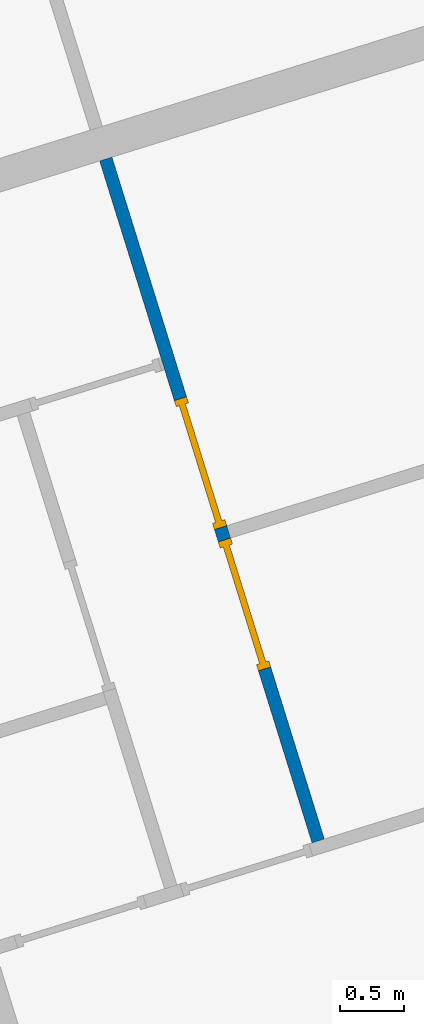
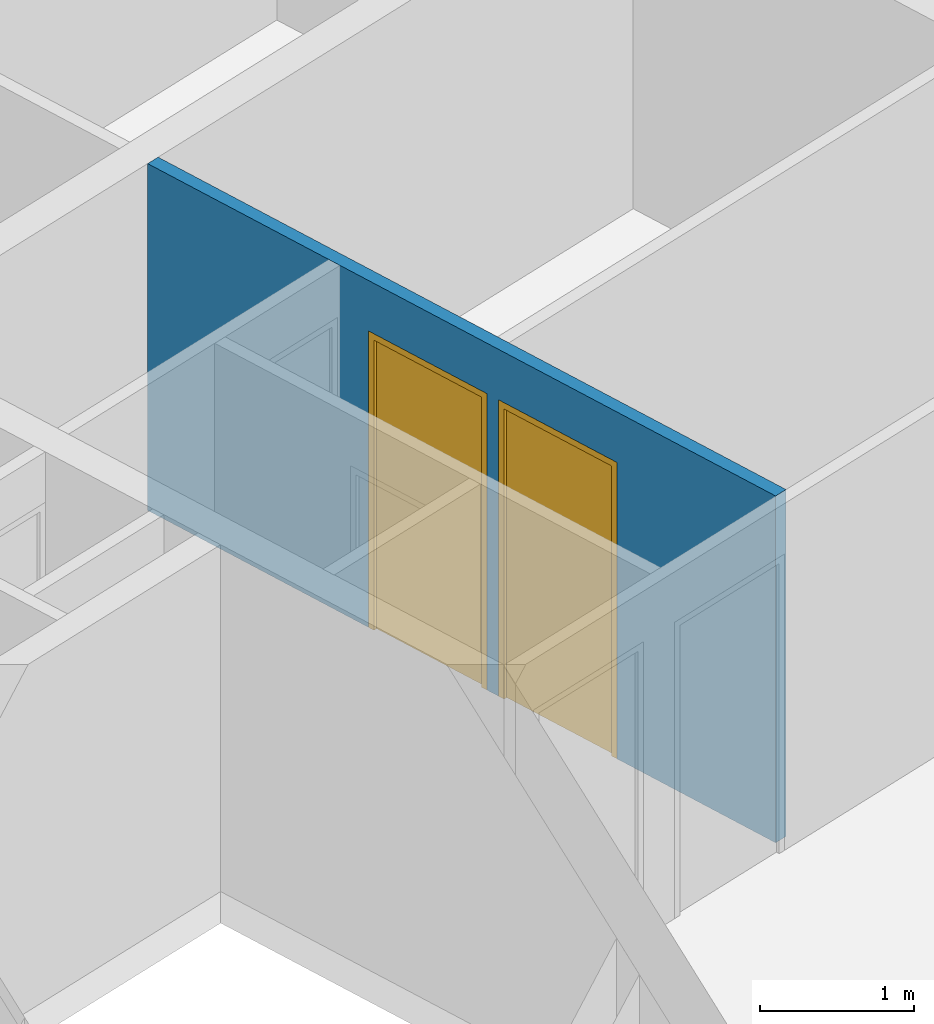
# One storey, part 9 of 9: 2 doors, 1 wall, 2 openings.
"""IFC4 building model written with IfcOpenShell, lengths in metres."""

from ifc_helpers import new_model, entity, si_unit, converted_unit, direction, frame, origin, place, context, subcontext, project, spatial, indexed_curve, outline, extrude, polygons, source, transform, mapped, material, constituent, constituent_set, type_object, type_shapes, element, fill, save


model = new_model("IFC4")

# Units and contexts
model_context = context("Model", 3, precision=1e-05, world=origin(), true_north=direction((6.12323399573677e-17, 1.0)))
body_context = subcontext(model_context, "Body", "Model", "MODEL_VIEW")
ifc_project = project(units=[si_unit("LENGTHUNIT", "METRE"), si_unit("AREAUNIT", "SQUARE_METRE"), converted_unit("PLANEANGLEUNIT", "DEGREE", entity("IfcPlaneAngleMeasure", 0.0174532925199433), si_unit("PLANEANGLEUNIT", "RADIAN"), dimensions=[0, 0, 0, 0, 0, 0, 0]), si_unit("VOLUMEUNIT", "CUBIC_METRE")], contexts=[model_context])

# Site, building, storey
site_placement = place(None, frame((13.1347999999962, 11.9886000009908, 0.0), z_axis=(0.0, 0.0, 1.0), x_axis=(0.954770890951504, 0.297342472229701, 0.0)))
site = spatial("IfcSite", under=ifc_project, at=site_placement, Name="Schiehaven", CompositionType="ELEMENT")
building_placement = place(site_placement, origin())
building = spatial("IfcBuilding", under=site, at=building_placement, Name="VORM huis", CompositionType="ELEMENT")
storey_placement = place(building_placement, frame((0.0, 0.0, 24.9)))
storey = spatial("IfcBuildingStorey", under=building, at=storey_placement, Name="08 achtste verdieping", CompositionType="ELEMENT", Elevation=24.9)

# Wall, openings, doors
ifc_material_1 = material(Name="ntb_ntb_ntb", Category="Miscellaneous")
wall_type = type_object("IfcWallType", Name="Basic Wall:22_WA_afbouw_binnenwand 100mm_gen", PredefinedType="STANDARD")
wall_placement = place(storey_placement, frame((75.2749999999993, 22.075, 0.0), z_axis=(0.0, 0.0, 1.0), x_axis=(0.0, -1.0, 0.0)))
wall = element("IfcWall", 1, at=wall_placement, inside=storey, type_object=wall_type, material=ifc_material_1, Name="Binnenwand", ObjectType="Wand", PredefinedType="NOTDEFINED", context=body_context, shape_type="Tessellation", body=[
    polygons([(3.00000000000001, -0.0500000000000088, 0.0), (3.10000000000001, -0.0500000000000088, 0.0), (3.10000000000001, -0.0500000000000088, 2.34999999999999), (4.15000000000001, -0.0500000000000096, 2.34999999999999), (4.15000000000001, -0.0500000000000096, 0.0), (5.55000000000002, -0.0500000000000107, 0.0), (5.55000000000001, -0.0500000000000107, 2.75), (1.70000000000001, -0.0500000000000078, 2.75), (1.60000000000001, -0.0500000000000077, 2.75), (0.0, -0.0500000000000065, 2.75), (0.0, -0.0500000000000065, 0.0), (1.60000000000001, -0.0500000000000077, 0.0), (1.70000000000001, -0.0500000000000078, 0.0), (1.95, -0.050000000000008, 0.0), (1.95000000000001, -0.050000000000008, 2.34999999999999), (3.00000000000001, -0.0500000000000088, 2.34999999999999), (3.10000000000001, 0.0500000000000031, 2.34999999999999), (3.10000000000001, 0.0500000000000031, 0.0), (3.00000000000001, 0.0500000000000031, 0.0), (3.00000000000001, 0.0500000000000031, 2.34999999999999), (1.95000000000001, 0.0500000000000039, 2.34999999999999), (1.95, 0.0500000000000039, 0.0), (0.0, 0.0500000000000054, 0.0), (0.0, 0.0500000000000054, 2.75), (3.00000000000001, 0.0499999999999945, 2.75), (3.10000000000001, 0.0499999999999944, 2.75), (5.55000000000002, 0.0500000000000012, 2.75), (5.55000000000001, 0.0500000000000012, 0.0), (4.15000000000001, 0.0500000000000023, 0.0), (4.15000000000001, 0.0500000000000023, 2.34999999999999)], [[[1, 2, 3, 4, 5, 6, 7, 8, 9, 10, 11, 12, 13, 14, 15, 16]], [[17, 18, 19, 20, 21, 22, 23, 24, 25, 26, 27, 28, 29, 30]], [[11, 23, 22, 14, 13, 12]], [[10, 9, 8, 7, 27, 26, 25, 24]], [[11, 10, 24, 23]], [[16, 20, 19, 1]], [[21, 15, 14, 22]], [[20, 16, 15, 21]], [[7, 6, 28, 27]], [[5, 4, 30, 29]], [[3, 2, 18, 17]], [[4, 3, 17, 30]], [[19, 18, 2, 1]], [[29, 28, 6, 5]]], closed=True),
])
opening_1_placement = place(wall_placement, frame((3.0, 0.0500000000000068, 0.0)))
opening_1 = element("IfcOpeningElement", 2, at=opening_1_placement, cuts=wall, Name="Binnendeur", PredefinedType="OPENING", context=body_context, shape_type="SweptSolid", body=[
    extrude(outline(indexed_curve([(2.34999999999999, 6.11348705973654e-31), (2.34999999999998, 1.05), (0.0, 1.05), (2.16573425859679e-15, 6.11348705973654e-31), (2.34999999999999, 6.11348705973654e-31)], self_intersect=False)), frame((0.0, 0.0, 0.0), z_axis=(0.0, -1.0, 0.0), x_axis=(0.0, 0.0, 1.0)), (0.0, 0.0, 1.0), 0.1),
])
opening_2_placement = place(wall_placement, frame((4.15000000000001, 0.0500000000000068, 0.0)))
opening_2 = element("IfcOpeningElement", 3, at=opening_2_placement, cuts=wall, Name="Binnendeur", PredefinedType="OPENING", context=body_context, shape_type="SweptSolid", body=[
    extrude(outline(indexed_curve([(2.34999999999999, 1.08286712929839e-15), (2.34999999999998, 1.05), (0.0, 1.05), (2.16573425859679e-15, 1.08286712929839e-15), (2.34999999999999, 1.08286712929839e-15)], self_intersect=False)), frame((0.0, 0.0, 0.0), z_axis=(0.0, -1.0, 0.0), x_axis=(0.0, 0.0, 1.0)), (0.0, 0.0, 1.0), 0.1),
])
ifc_material_2 = material(Name="PD_a_binnenwandopeningen", Category="Miscellaneous")
ifc_constituent_1 = constituent(ifc_material_2, Name="PD_a_binnenwandopeningen", Category="Miscellaneous")
ifc_material_3 = material(Name="metaal_aluminium_ntb", Category="Miscellaneous")
ifc_constituent_2 = constituent(ifc_material_3, Name="metaal_aluminium_ntb", Category="Miscellaneous")
ifc_constituent_set_1 = constituent_set(constituents=[ifc_constituent_1, ifc_constituent_2])
ifc_constituent_3 = constituent(ifc_material_2, Name="PD_a_binnenwandopeningen", Category="Miscellaneous")
ifc_constituent_4 = constituent(ifc_material_3, Name="Panel", Category="Miscellaneous")
ifc_constituent_set_2 = constituent_set(constituents=[ifc_constituent_3, ifc_constituent_4])
door_type = type_object("IfcDoorType", Name="32_DO_binnendeur enkel:binnendeur", OperationType="REVOLVING", PredefinedType="DOOR", material=ifc_constituent_set_2)
shared_shape = source(origin(), body_context, "Body", "SweptSolid", [
    extrude(outline(indexed_curve([(0.475, -1.16249999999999), (0.525, -1.16249999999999), (0.525, 1.18749999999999), (-0.525, 1.18749999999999), (-0.525, -1.16249999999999), (-0.475, -1.16249999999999), (-0.475, 1.13749999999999), (0.475, 1.13749999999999), (0.475, -1.16249999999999)], self_intersect=False)), frame((0.525000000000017, 0.100000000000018, 1.16249999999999), z_axis=(0.0, -1.0, 0.0), x_axis=(1.0, 0.0, 0.0)), (0.0, 0.0, 1.0), 0.1),
    extrude(outline(indexed_curve([(-0.475, -0.025), (0.475, -0.025), (0.475, 0.025), (-0.475, 0.025), (-0.475, -0.025)], self_intersect=False)), frame((0.525000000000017, 0.0499999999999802, 0.0)), (0.0, 0.0, 1.0), 2.29999999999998),
])
type_shapes(door_type, [shared_shape])
door_1_placement = place(opening_1_placement, frame((0.0, 0.0, 0.0), z_axis=(0.0, 0.0, 1.0), x_axis=(-1.0, 0.0, 0.0)))
door_1 = element("IfcDoor", 4, at=door_1_placement, inside=storey, type_object=door_type, material=ifc_constituent_set_1, Name="Binnendeur", ObjectType="Deur", OperationType="REVOLVING", OverallHeight=2.34999999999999, OverallWidth=1.05, PredefinedType="DOOR", context=body_context, shape_type="MappedRepresentation", body=[
    mapped(shared_shape, transform((0.0, 0.0, 0.0), scale=1.0)),
])
fill(opening_1, door_1)
ifc_constituent_5 = constituent(ifc_material_2, Name="PD_a_binnenwandopeningen", Category="Miscellaneous")
ifc_constituent_6 = constituent(ifc_material_3, Name="metaal_aluminium_ntb", Category="Miscellaneous")
ifc_constituent_set_3 = constituent_set(constituents=[ifc_constituent_5, ifc_constituent_6])
door_2_placement = place(opening_2_placement, frame((0.0, 0.0, 0.0), z_axis=(0.0, 0.0, 1.0), x_axis=(-1.0, 0.0, 0.0)))
door_2 = element("IfcDoor", 5, at=door_2_placement, inside=storey, type_object=door_type, material=ifc_constituent_set_3, Name="Binnendeur", ObjectType="Deur", OperationType="REVOLVING", OverallHeight=2.34999999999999, OverallWidth=1.05, PredefinedType="DOOR", context=body_context, shape_type="MappedRepresentation", body=[
    mapped(shared_shape, transform((0.0, 0.0, 0.0), scale=1.0)),
])
fill(opening_2, door_2)

save(model, "model.ifc")
